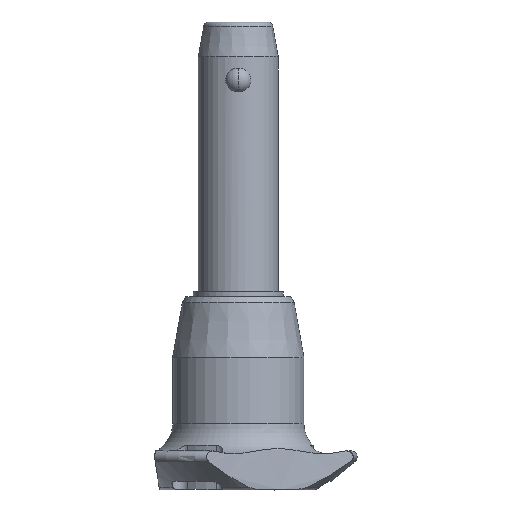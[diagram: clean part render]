
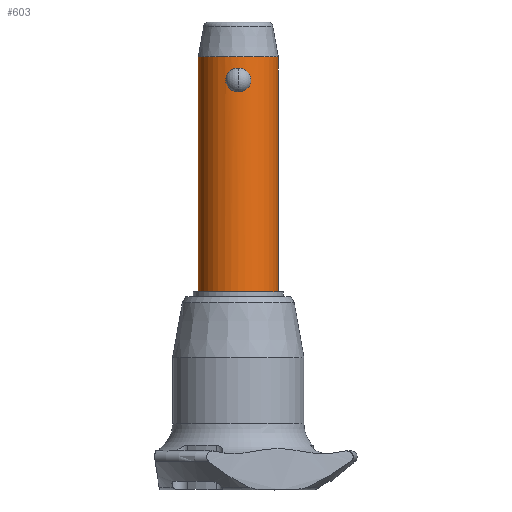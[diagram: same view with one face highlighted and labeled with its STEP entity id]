
A CAD part, front view. The second image highlights one B-rep face of the part: STEP entity #603.
In plain terms, the highlighted cylindrical face has radius 8 mm (diameter 16 mm), a partial arc.
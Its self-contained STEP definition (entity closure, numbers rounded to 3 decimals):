
#23 = ORIENTED_EDGE ( 'NONE', *, *, #2154, .F. ) ;
#31 = CARTESIAN_POINT ( 'NONE',  ( 0., 0., -40. ) ) ;
#37 = ORIENTED_EDGE ( 'NONE', *, *, #556, .F. ) ;
#94 = CARTESIAN_POINT ( 'NONE',  ( 2.275, -7.67, 1.291 ) ) ;
#107 = CARTESIAN_POINT ( 'NONE',  ( 2.016, -7.746, 3.891 ) ) ;
#137 = DIRECTION ( 'NONE',  ( 0., 0., -1. ) ) ;
#226 = CARTESIAN_POINT ( 'NONE',  ( 0., 0., -40. ) ) ;
#255 = CARTESIAN_POINT ( 'NONE',  ( -1.53, -7.854, 0.464 ) ) ;
#269 = ORIENTED_EDGE ( 'NONE', *, *, #2109, .T. ) ;
#292 = CARTESIAN_POINT ( 'NONE',  ( -2.016, -7.746, 0.883 ) ) ;
#301 = CARTESIAN_POINT ( 'NONE',  ( -2.547, -7.584, 2.229 ) ) ;
#302 = EDGE_CURVE ( 'NONE', #407, #2375, #858, .T. ) ;
#356 = CARTESIAN_POINT ( 'NONE',  ( 2.194, -7.694, 1.153 ) ) ;
#390 = VERTEX_POINT ( 'NONE', #2388 ) ;
#407 = VERTEX_POINT ( 'NONE', #2076 ) ;
#416 = CARTESIAN_POINT ( 'NONE',  ( -0.803, -7.961, 4.661 ) ) ;
#433 = DIRECTION ( 'NONE',  ( 0., 0., 1. ) ) ;
#488 = CARTESIAN_POINT ( 'NONE',  ( -2.193, -7.694, 3.623 ) ) ;
#518 = CARTESIAN_POINT ( 'NONE',  ( -2.408, -7.629, 3.189 ) ) ;
#521 = CARTESIAN_POINT ( 'NONE',  ( 2.46, -7.613, 1.742 ) ) ;
#535 = CARTESIAN_POINT ( 'NONE',  ( 2.211, -7.69, 3.626 ) ) ;
#556 = EDGE_CURVE ( 'NONE', #2375, #1704, #1736, .T. ) ;
#559 = DIRECTION ( 'NONE',  ( 0., 0., 1. ) ) ;
#571 = VERTEX_POINT ( 'NONE', #1322 ) ;
#577 = CARTESIAN_POINT ( 'NONE',  ( 1.252, -7.903, 0.296 ) ) ;
#603 = ADVANCED_FACE ( 'NONE', ( #2633, #2217 ), #2430, .T. ) ;
#637 = CARTESIAN_POINT ( 'NONE',  ( -0.645, -7.976, 4.704 ) ) ;
#644 = CIRCLE ( 'NONE', #819, 8. ) ;
#701 = CARTESIAN_POINT ( 'NONE',  ( -1.106, -7.925, 0.226 ) ) ;
#709 = CARTESIAN_POINT ( 'NONE',  ( -0.324, -8., 0. ) ) ;
#738 = VECTOR ( 'NONE', #559, 1000. ) ;
#744 = CARTESIAN_POINT ( 'NONE',  ( 2.004, -7.746, 0.894 ) ) ;
#750 = CARTESIAN_POINT ( 'NONE',  ( -2.276, -7.67, 3.482 ) ) ;
#754 = CARTESIAN_POINT ( 'NONE',  ( 2.547, -7.584, 2.549 ) ) ;
#763 = CARTESIAN_POINT ( 'NONE',  ( 1.108, -7.924, 4.548 ) ) ;
#778 = DIRECTION ( 'NONE',  ( 1., 0., 0. ) ) ;
#791 = CARTESIAN_POINT ( 'NONE',  ( 0.324, -8., 0. ) ) ;
#819 = AXIS2_PLACEMENT_3D ( 'NONE', #1213, #137, #778 ) ;
#848 = CARTESIAN_POINT ( 'NONE',  ( -0.164, -8., 4.775 ) ) ;
#858 = CIRCLE ( 'NONE', #1565, 8. ) ;
#867 = CARTESIAN_POINT ( 'NONE',  ( -8., 0., -40. ) ) ;
#907 = CARTESIAN_POINT ( 'NONE',  ( -1.107, -7.924, 4.548 ) ) ;
#925 = ORIENTED_EDGE ( 'NONE', *, *, #1402, .F. ) ;
#951 = CARTESIAN_POINT ( 'NONE',  ( -1.252, -7.903, 4.479 ) ) ;
#985 = CARTESIAN_POINT ( 'NONE',  ( 1.66, -7.827, 4.215 ) ) ;
#1007 = ORIENTED_EDGE ( 'NONE', *, *, #302, .F. ) ;
#1060 = CARTESIAN_POINT ( 'NONE',  ( 0.326, -7.995, 4.761 ) ) ;
#1063 = DIRECTION ( 'NONE',  ( 1., 0., 0. ) ) ;
#1138 = CARTESIAN_POINT ( 'NONE',  ( -0.652, -7.979, 0.058 ) ) ;
#1196 = CARTESIAN_POINT ( 'NONE',  ( 1.105, -7.925, 0.226 ) ) ;
#1213 = CARTESIAN_POINT ( 'NONE',  ( 0., 0., 7. ) ) ;
#1229 = CARTESIAN_POINT ( 'NONE',  ( 8., 0., -40. ) ) ;
#1245 = CARTESIAN_POINT ( 'NONE',  ( 2.408, -7.629, 1.586 ) ) ;
#1262 = CARTESIAN_POINT ( 'NONE',  ( 0., -8., 0. ) ) ;
#1288 = CARTESIAN_POINT ( 'NONE',  ( 0.164, -8., 4.775 ) ) ;
#1322 = CARTESIAN_POINT ( 'NONE',  ( 8., 0., 7. ) ) ;
#1350 = CARTESIAN_POINT ( 'NONE',  ( -2.411, -7.628, 1.592 ) ) ;
#1378 = CARTESIAN_POINT ( 'NONE',  ( -1.659, -7.827, 0.559 ) ) ;
#1390 = DIRECTION ( 'NONE',  ( 1., 0., 0. ) ) ;
#1402 = EDGE_CURVE ( 'NONE', #390, #1930, #2501, .T. ) ;
#1409 = CARTESIAN_POINT ( 'NONE',  ( 2.546, -7.584, 2.22 ) ) ;
#1457 = LINE ( 'NONE', #1229, #738 ) ;
#1463 = CARTESIAN_POINT ( 'NONE',  ( 1.657, -7.827, 0.558 ) ) ;
#1522 = AXIS2_PLACEMENT_3D ( 'NONE', #226, #2617, #1063 ) ;
#1565 = AXIS2_PLACEMENT_3D ( 'NONE', #31, #2502, #1390 ) ;
#1642 = B_SPLINE_CURVE_WITH_KNOTS ( 'NONE', 3,
 ( #2790, #791, #2750, #1196, #577, #2733, #1463, #2352, #744, #356, #94, #1245, #521, #2102, #1409, #754, #2299, #2535, #2085, #535, #107, #985, #1879, #2763, #763, #1746, #1970, #1060, #1288, #2153 ),
 .UNSPECIFIED., .F., .F.,
 ( 4, 2, 2, 2, 2, 2, 2, 2, 2, 2, 2, 2, 2, 2, 4 ),
 ( 0.008, 0.009, 0.009, 0.01, 0.01, 0.011, 0.011, 0.012, 0.012, 0.013, 0.014, 0.014, 0.015, 0.015, 0.016 ),
 .UNSPECIFIED. ) ;
#1644 = CARTESIAN_POINT ( 'NONE',  ( -2.211, -7.69, 1.148 ) ) ;
#1704 = VERTEX_POINT ( 'NONE', #2469 ) ;
#1706 = VECTOR ( 'NONE', #433, 1000. ) ;
#1736 = LINE ( 'NONE', #867, #1706 ) ;
#1746 = CARTESIAN_POINT ( 'NONE',  ( 0.804, -7.961, 4.661 ) ) ;
#1747 = CARTESIAN_POINT ( 'NONE',  ( -0.326, -7.995, 4.761 ) ) ;
#1768 = ORIENTED_EDGE ( 'NONE', *, *, #2596, .T. ) ;
#1811 = CARTESIAN_POINT ( 'NONE',  ( -2.459, -7.613, 3.036 ) ) ;
#1849 = CARTESIAN_POINT ( 'NONE',  ( -1.658, -7.827, 4.216 ) ) ;
#1879 = CARTESIAN_POINT ( 'NONE',  ( 1.529, -7.854, 4.312 ) ) ;
#1930 = VERTEX_POINT ( 'NONE', #1262 ) ;
#1970 = CARTESIAN_POINT ( 'NONE',  ( 0.645, -7.976, 4.704 ) ) ;
#2030 = CARTESIAN_POINT ( 'NONE',  ( -2.461, -7.612, 1.746 ) ) ;
#2076 = CARTESIAN_POINT ( 'NONE',  ( 8., 0., -40. ) ) ;
#2081 = CARTESIAN_POINT ( 'NONE',  ( 0., -8., 0. ) ) ;
#2085 = CARTESIAN_POINT ( 'NONE',  ( 2.41, -7.629, 3.184 ) ) ;
#2102 = CARTESIAN_POINT ( 'NONE',  ( 2.528, -7.59, 2.058 ) ) ;
#2109 = EDGE_CURVE ( 'NONE', #571, #1704, #644, .T. ) ;
#2153 = CARTESIAN_POINT ( 'NONE',  ( 0., -8., 4.775 ) ) ;
#2154 = EDGE_CURVE ( 'NONE', #1930, #390, #1642, .T. ) ;
#2217 = FACE_BOUND ( 'NONE', #2378, .T. ) ;
#2248 = CARTESIAN_POINT ( 'NONE',  ( -1.527, -7.854, 4.313 ) ) ;
#2251 = EDGE_LOOP ( 'NONE', ( #37, #1007, #1768, #269 ) ) ;
#2284 = CARTESIAN_POINT ( 'NONE',  ( -2.529, -7.59, 2.064 ) ) ;
#2299 = CARTESIAN_POINT ( 'NONE',  ( 2.529, -7.59, 2.71 ) ) ;
#2352 = CARTESIAN_POINT ( 'NONE',  ( 1.894, -7.773, 0.773 ) ) ;
#2375 = VERTEX_POINT ( 'NONE', #2769 ) ;
#2378 = EDGE_LOOP ( 'NONE', ( #925, #23 ) ) ;
#2388 = CARTESIAN_POINT ( 'NONE',  ( 0., -8., 4.775 ) ) ;
#2430 = CYLINDRICAL_SURFACE ( 'NONE', #1522, 8. ) ;
#2469 = CARTESIAN_POINT ( 'NONE',  ( -8., 0., 7. ) ) ;
#2501 = B_SPLINE_CURVE_WITH_KNOTS ( 'NONE', 3,
 ( #2851, #848, #1747, #637, #416, #907, #951, #2248, #1849, #2715, #2519, #488, #750, #518, #1811, #2692, #2746, #301, #2284, #2030, #1350, #1644, #292, #1378, #255, #2532, #701, #1138, #709, #2081 ),
 .UNSPECIFIED., .F., .F.,
 ( 4, 2, 2, 2, 2, 2, 2, 2, 2, 2, 2, 2, 2, 2, 4 ),
 ( 0., 0., 0.001, 0.001, 0.002, 0.002, 0.003, 0.003, 0.004, 0.004, 0.005, 0.006, 0.006, 0.007, 0.008 ),
 .UNSPECIFIED. ) ;
#2502 = DIRECTION ( 'NONE',  ( 0., 0., -1. ) ) ;
#2519 = CARTESIAN_POINT ( 'NONE',  ( -2.003, -7.746, 3.882 ) ) ;
#2532 = CARTESIAN_POINT ( 'NONE',  ( -1.254, -7.902, 0.297 ) ) ;
#2535 = CARTESIAN_POINT ( 'NONE',  ( 2.461, -7.612, 3.027 ) ) ;
#2596 = EDGE_CURVE ( 'NONE', #407, #571, #1457, .T. ) ;
#2617 = DIRECTION ( 'NONE',  ( 0., 0., 1. ) ) ;
#2633 = FACE_OUTER_BOUND ( 'NONE', #2251, .T. ) ;
#2692 = CARTESIAN_POINT ( 'NONE',  ( -2.529, -7.59, 2.716 ) ) ;
#2715 = CARTESIAN_POINT ( 'NONE',  ( -1.896, -7.773, 4.001 ) ) ;
#2733 = CARTESIAN_POINT ( 'NONE',  ( 1.529, -7.854, 0.463 ) ) ;
#2746 = CARTESIAN_POINT ( 'NONE',  ( -2.546, -7.584, 2.553 ) ) ;
#2750 = CARTESIAN_POINT ( 'NONE',  ( 0.652, -7.979, 0.058 ) ) ;
#2763 = CARTESIAN_POINT ( 'NONE',  ( 1.253, -7.903, 4.478 ) ) ;
#2769 = CARTESIAN_POINT ( 'NONE',  ( -8., 0., -40. ) ) ;
#2790 = CARTESIAN_POINT ( 'NONE',  ( 0., -8., 0. ) ) ;
#2851 = CARTESIAN_POINT ( 'NONE',  ( 0., -8., 4.775 ) ) ;
